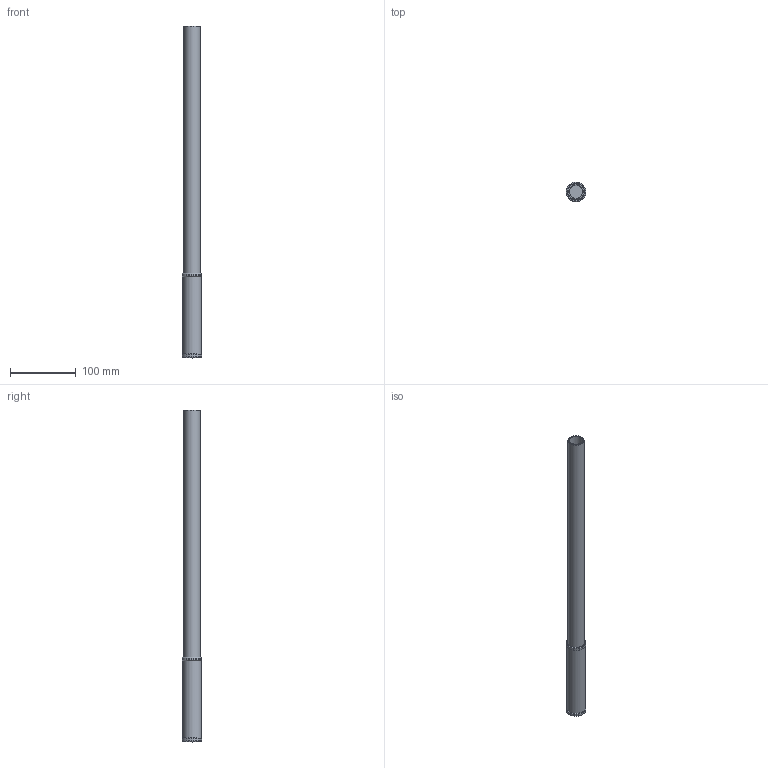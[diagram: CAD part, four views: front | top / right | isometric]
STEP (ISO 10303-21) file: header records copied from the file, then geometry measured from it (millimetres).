
FILE_DESCRIPTION(/* description */ (''),/* implementation_level */ '2;1');
FILE_NAME(/* name */ '6800.0052.stp',/* time_stamp */ '2026-04-07T15:30:57+02:00',/* author */ ('christian.scardovi'),/* organization */ (''),/* preprocessor_version */ 'ST-DEVELOPER v20.1',/* originating_system */ 'Autodesk Inventor 2026',/* authorisation */ '');
FILE_SCHEMA (('AUTOMOTIVE_DESIGN { 1 0 10303 214 3 1 1 }'));
Length unit declared in the file: millimetre
Products named in the file (1): 6800.0052
Bounding box: 29.98 x 29.98 x 503.31 mm (x, y, z)
Volume: 105541 mm3; surface area: 93529.2 mm2
Topology: 2 solids, 2 shells, 20 faces, 37 edges, 22 vertices
Faces by surface type: cylinder 7, plane 5, torus 5, cone 3
Full cylindrical faces by diameter (mm): 20 x1, 20.6 x1, 25 x2, 28 x1, 30 x2
Entity records: 591 total; most frequent: DIRECTION 104, CARTESIAN_POINT 79, ORIENTED_EDGE 72, AXIS2_PLACEMENT_3D 47, EDGE_CURVE 36, CIRCLE 26, EDGE_LOOP 24, VERTEX_POINT 22
